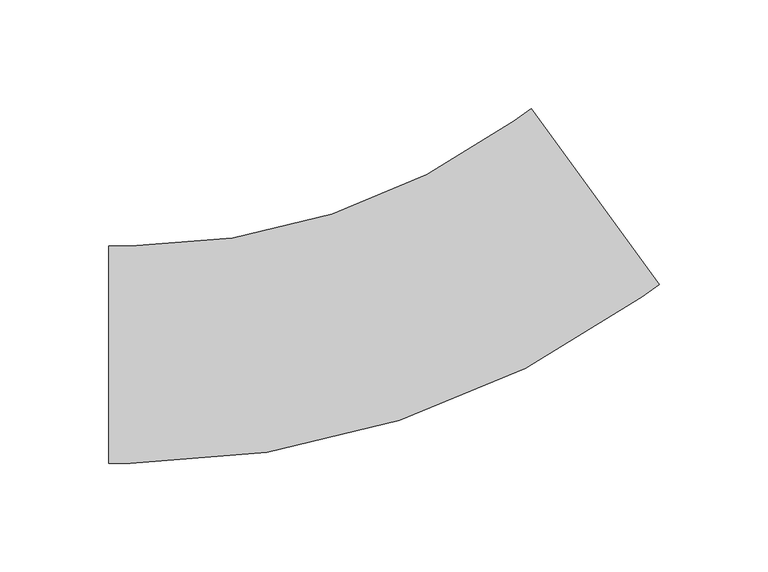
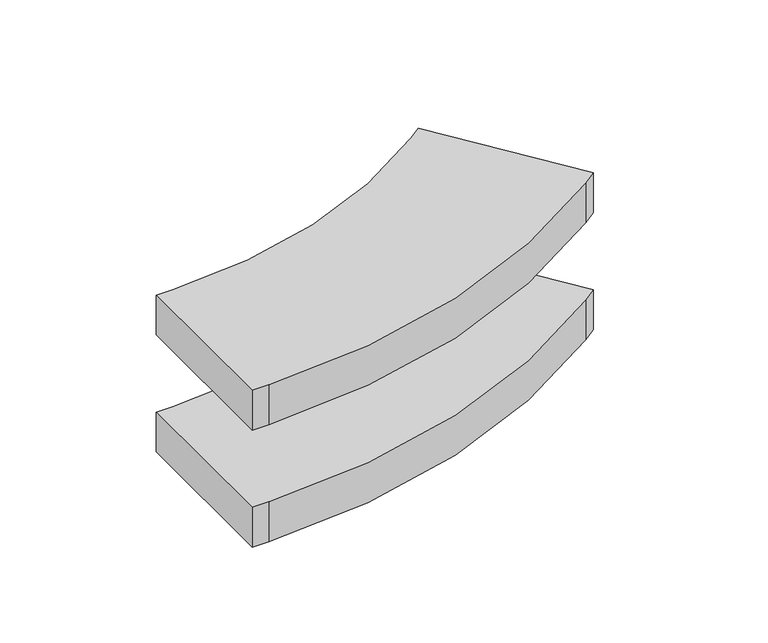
"""IFC4 building model written with IfcOpenShell, lengths in millimetres: cable carrier fitting geometry, ADSK_Поворот вертикальный наружный_Лестничный лоток : Радиус 300 мм."""

from ifc_helpers import new_model, si_unit, point, frame, frame_2d, origin, place, context, project, spatial, polyline, circle_curve, trimmed, segment, composite_curve, outline, extrude, source, transform, mapped, element, save


def cable_carrier_fitting_83688e3a(model_context):
    return source(origin(), model_context, "Body", "SweptSolid", [
        extrude(outline(polyline([(-8.9383776, 68.6075609), (-1.089346, 44.4507254), (-25.2461815, 36.6016938), (-33.0952131, 60.7585293), (-8.9383776, 68.6075609)])), frame((0.0, 0.0, -24.6), z_axis=(0.0, 0.0, 1.0), x_axis=(1.0, 0.0, 0.0)), (0.0, 0.0, 1.0), 49.2),
        extrude(outline(composite_curve([segment(polyline([(-123.7218937, -50.0), (-123.7218937, 50.0), (-113.7218937, 50.0)]), True, "CONTINUOUS"), segment(trimmed(circle_curve(frame_2d((-113.7218937, 350.0)), 300.0), [point((-113.7218937, 50.0))], [point((62.613682, 107.2949017))], True, "CARTESIAN"), True, "CONTINUOUS"), segment(polyline([(62.613682, 107.2949017), (70.7038519, 113.1727542), (129.4823772, 32.2710548), (121.3922072, 26.3932023)]), True, "CONTINUOUS"), segment(trimmed(circle_curve(frame_2d((-113.7218937, 350.0)), 400.0), [point((121.3922072, 26.3932023))], [point((-113.7218937, -50.0))], False, "CARTESIAN"), True, "CONTINUOUS"), segment(polyline([(-113.7218937, -50.0), (-123.7218937, -50.0)]), True, "CONTINUOUS")], self_intersect=False)), frame((0.0, 0.0, 24.6), z_axis=(0.0, 0.0, 1.0), x_axis=(1.0, 0.0, 0.0)), (0.0, 0.0, 1.0), 25.4),
        extrude(outline(composite_curve([segment(polyline([(-123.7218937, -50.0), (-123.7218937, 50.0), (-113.7218937, 50.0)]), True, "CONTINUOUS"), segment(trimmed(circle_curve(frame_2d((-113.7218937, 350.0)), 300.0), [point((-113.7218937, 50.0))], [point((62.613682, 107.2949017))], True, "CARTESIAN"), True, "CONTINUOUS"), segment(polyline([(62.613682, 107.2949017), (70.7038519, 113.1727542), (129.4823772, 32.2710548), (121.3922072, 26.3932023)]), True, "CONTINUOUS"), segment(trimmed(circle_curve(frame_2d((-113.7218937, 350.0)), 400.0), [point((121.3922072, 26.3932023))], [point((-113.7218937, -50.0))], False, "CARTESIAN"), True, "CONTINUOUS"), segment(polyline([(-113.7218937, -50.0), (-123.7218937, -50.0)]), True, "CONTINUOUS")], self_intersect=False)), frame((0.0, 0.0, -50.0), z_axis=(0.0, 0.0, 1.0), x_axis=(1.0, 0.0, 0.0)), (0.0, 0.0, 1.0), 25.4),
    ])


if __name__ == "__main__":
    model = new_model("IFC4")
    model_context = context("Model", 3, world=origin())
    ifc_project = project(units=[si_unit("LENGTHUNIT", "METRE", prefix="MILLI")], contexts=[model_context])
    site = spatial("IfcSite", under=ifc_project)
    building = spatial("IfcBuilding", under=site)
    placement = place(None, origin())
    cable_carrier_fitting_shape = cable_carrier_fitting_83688e3a(model_context)
    element("IfcCableCarrierFitting", 1, ObjectType="ADSK_Поворот вертикальный наружный_Лестничный лоток : Радиус 300 мм", at=placement, inside=building, context=model_context, shape_type="MappedRepresentation", body=[
        mapped(cable_carrier_fitting_shape, transform((0.0, 0.0, 0.0), x_axis=(1.0, 0.0, 0.0), y_axis=(0.0, 1.0, 0.0), z_axis=(0.0, 0.0, 1.0))),
    ])
    save(model, "model.ifc")
